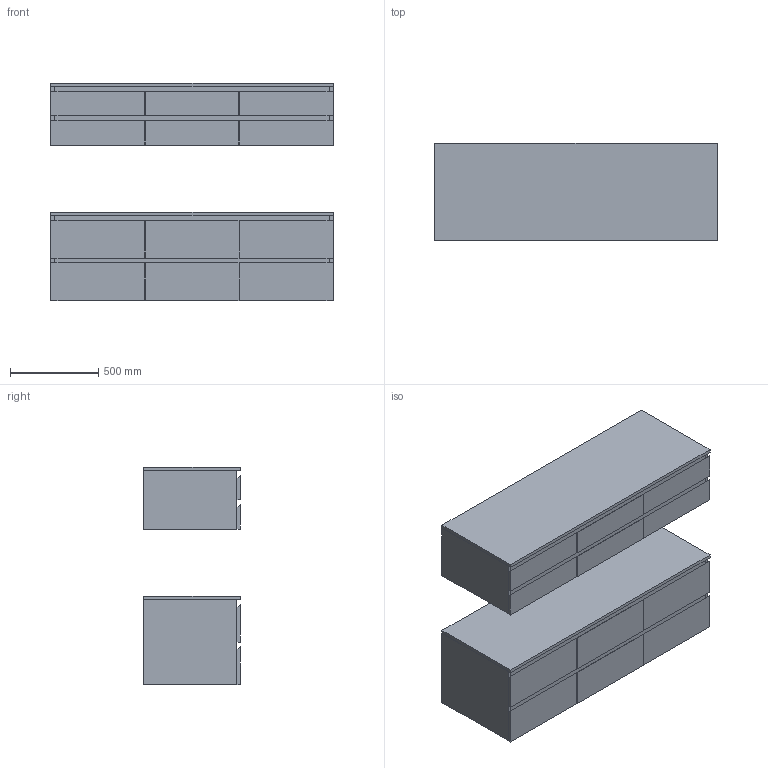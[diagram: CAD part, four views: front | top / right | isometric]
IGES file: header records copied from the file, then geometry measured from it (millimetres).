
Global section: file name: \\Archi-NAS\Comune\X GIOVANNI\MOBILI\EMOTION\EMOTION_9.igs; native system: Rhinoceros ( Feb 23 2021 ); preprocessor: Trout Lake IGES 012 Feb 23 2021; date: 230608.072055; units: millimetre
Bounding box: 1600 x 550 x 1231.73 mm (x, y, z)
Surface area: 24144333.1 mm2 (no closed solid volume)
Topology: 0 solids, 0 shells, 548 faces, 2240 edges, 2240 vertices
Faces by surface type: bspline 548
